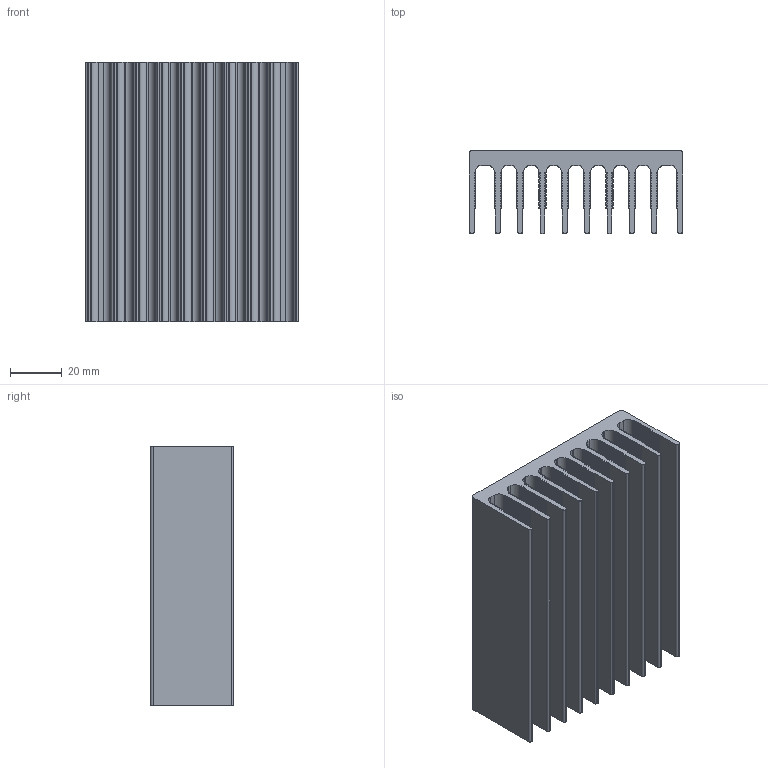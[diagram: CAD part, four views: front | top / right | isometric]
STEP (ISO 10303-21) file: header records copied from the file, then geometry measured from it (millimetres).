
FILE_DESCRIPTION (( 'STEP AP214' ), '1' );
FILE_NAME ('PR367.STEP', '2013-06-13T17:26:18', ( '' ), ( '' ), 'SwSTEP 2.0', 'SolidWorks 2013', '' );
FILE_SCHEMA (( 'AUTOMOTIVE_DESIGN' ));
Length unit declared in the file: millimetre
Products named in the file (1): PR367
Bounding box: 82 x 32 x 100 mm (x, y, z)
Volume: 106297 mm3; surface area: 81748.5 mm2
Topology: 1 solids, 1 shells, 1396 faces, 4182 edges, 2788 vertices
Faces by surface type: cylinder 832, plane 564
Entity records: 47724 total; most frequent: DIRECTION 8640, CARTESIAN_POINT 8367, ORIENTED_EDGE 8364, EDGE_CURVE 4182, AXIS2_PLACEMENT_3D 3061, VERTEX_POINT 2788, LINE 2518, VECTOR 2518
